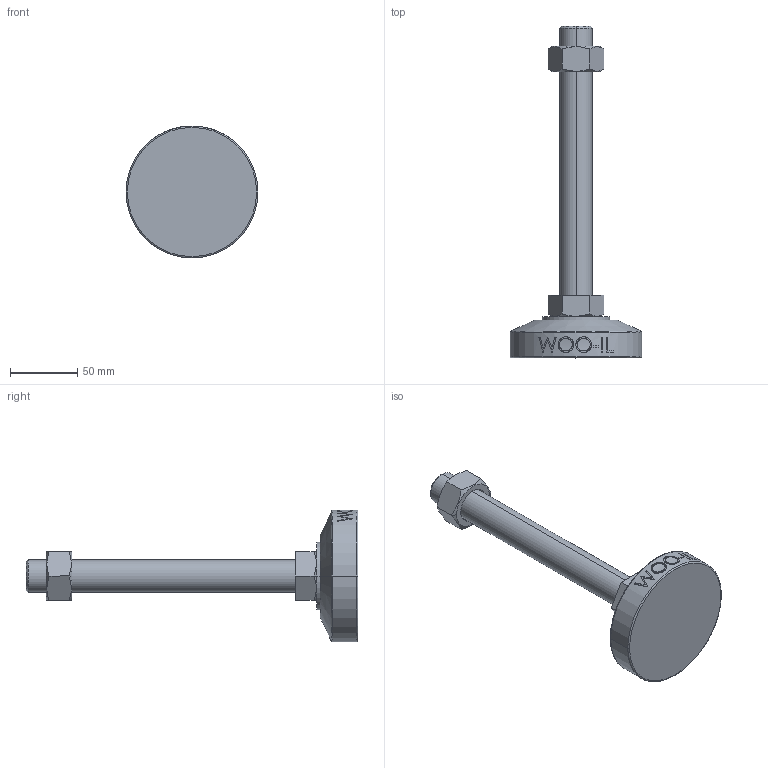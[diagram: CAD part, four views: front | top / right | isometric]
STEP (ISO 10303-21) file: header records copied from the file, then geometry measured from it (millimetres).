
FILE_DESCRIPTION (( 'STEP AP214' ), '1' );
FILE_NAME ('MFB98-M24-200.step', '2022-06-27T08:36:50', ( '' ), ( '' ), 'SwSTEP 2.0', 'SolidWorks 2019', '' );
FILE_SCHEMA (( 'AUTOMOTIVE_DESIGN' ));
Length unit declared in the file: millimetre
Products named in the file (1): MFB98-M24-200
Bounding box: 98 x 246.5 x 98 mm (x, y, z)
Volume: 316004 mm3; surface area: 45872.6 mm2
Topology: 3 solids, 3 shells, 97 faces, 225 edges, 144 vertices
Faces by surface type: plane 47, cylinder 16, bspline 16, cone 14, torus 4
Entity records: 4451 total; most frequent: CARTESIAN_POINT 2321, ORIENTED_EDGE 450, DIRECTION 385, EDGE_CURVE 225, AXIS2_PLACEMENT_3D 144, VERTEX_POINT 144, EDGE_LOOP 109, FACE_OUTER_BOUND 97
